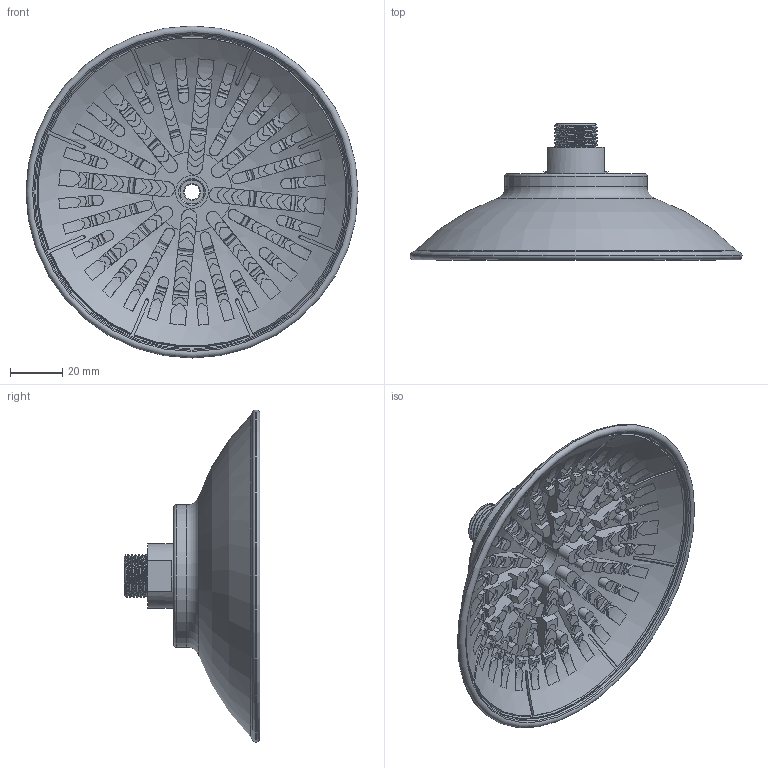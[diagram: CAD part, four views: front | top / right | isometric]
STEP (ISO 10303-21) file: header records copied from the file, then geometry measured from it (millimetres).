
FILE_DESCRIPTION (( 'STEP AP214' ), '1' );
FILE_NAME ('7R 125-- M38.STEP', '2024-02-14T07:44:06', ( '' ), ( '' ), 'SwSTEP 2.0', 'SolidWorks 2021', '' );
FILE_SCHEMA (( 'AUTOMOTIVE_DESIGN' ));
Length unit declared in the file: millimetre
Products named in the file (1): 7R 125-- M38
Bounding box: 126.92 x 51.98 x 126.92 mm (x, y, z)
Volume: 102535.8 mm3; surface area: 49064.4 mm2
Topology: 3 solids, 3 shells, 1191 faces, 3418 edges, 2270 vertices
Faces by surface type: plane 554, cone 234, cylinder 224, torus 173, bspline 6
Full cylindrical faces by diameter (mm): 6 x1, 9.15 x1, 12.492 x1, 15.25 x6, 17 x1, 24.8 x1, 38.5 x2, 44 x4, 47 x2, 54.466 x1, 120.257 x1, 126.921 x1
Entity records: 60340 total; most frequent: CARTESIAN_POINT 19226, ORIENTED_EDGE 6668, DIRECTION 4633, EDGE_CURVE 3334, VERTEX_POINT 2242, AXIS2_PLACEMENT_3D 1722, B_SPLINE_CURVE_WITH_KNOTS 1592, EDGE_LOOP 1276
